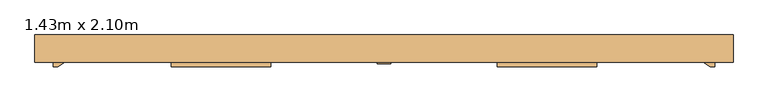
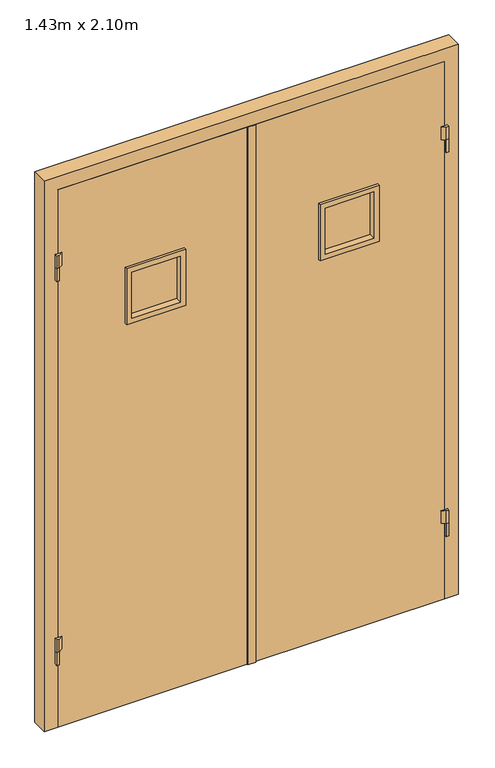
"""IFC4 building model written with IfcOpenShell, lengths in millimetres: door geometry, Issue de Secours : 1.43m x 2.10m."""

from ifc_helpers import new_model, si_unit, frame, origin, origin_with_axes, place, context, project, spatial, polyline, outline, extrude, faceted_brep, source, transform, mapped, element, save


def door_1_43m_x_2_10m_1bf93080(model_context):
    return source(origin(), model_context, "Body", "SolidModel", [
        faceted_brep([(-715.0, -170.0, 0.0), (-765.0, -170.0, 0.0), (-765.0, -110.0, 0.0), (-700.0, -110.0, 0.0), (-700.0, -130.0, 0.0), (-715.0, -130.0, 0.0), (-715.0, -130.0, 2100.0), (-715.0, -170.0, 2100.0), (-700.0, -130.0, 2085.0), (700.0, -130.0, 2085.0), (700.0, -130.0, 0.0), (715.0, -130.0, 0.0), (715.0, -130.0, 2100.0), (-700.0, -110.0, 2085.0), (-765.0, -110.0, 2150.0), (765.0, -110.0, 2150.0), (765.0, -110.0, 0.0), (700.0, -110.0, 0.0), (700.0, -110.0, 2085.0), (-765.0, -170.0, 2150.0), (715.0, -170.0, 2100.0), (715.0, -170.0, 0.0), (765.0, -170.0, 0.0), (765.0, -170.0, 2150.0)], [[[0, 1, 2, 3, 4, 5]], [[5, 6, 7, 0]], [[4, 8, 9, 10, 11, 12, 6, 5]], [[3, 13, 8, 4]], [[2, 14, 15, 16, 17, 18, 13, 3]], [[1, 19, 14, 2]], [[0, 7, 20, 21, 22, 23, 19, 1]], [[12, 11, 21, 20]], [[21, 11, 10, 17, 16, 22]], [[18, 17, 10, 9]], [[23, 22, 16, 15]], [[6, 12, 20, 7]], [[13, 18, 9, 8]], [[19, 23, 15, 14]]]),
        extrude(outline(polyline([(15.0, -173.0), (-15.0, -173.0), (-15.0, -170.0), (15.0, -170.0), (15.0, -173.0)])), origin_with_axes(), (0.0, 0.0, 1.0), 2100.0),
        extrude(outline(polyline([(262.5, -144.0), (452.5, -144.0), (452.5, -156.0), (262.5, -156.0), (262.5, -144.0)])), frame((0.0, 0.0, 1505.0), z_axis=(0.0, 0.0, 1.0), x_axis=(1.0, 0.0, 0.0)), (0.0, 0.0, 1.0), 190.0),
        faceted_brep([(457.5, -130.0, 1500.0), (457.5, -130.0, 1700.0), (457.5, -170.0, 1700.0), (457.5, -170.0, 1500.0), (466.5618929, -120.0, 1490.9381071), (466.5618929, -120.0, 1709.0618929), (466.5618929, -130.0, 1709.0618929), (466.5618929, -130.0, 1490.9381071), (447.5, -144.0, 1510.0), (447.5, -144.0, 1690.0), (447.5, -120.0, 1690.0), (447.5, -120.0, 1510.0), (452.5, -156.0, 1505.0), (452.5, -156.0, 1695.0), (452.5, -144.0, 1695.0), (452.5, -144.0, 1505.0), (447.5, -180.0, 1510.0), (447.5, -180.0, 1690.0), (447.5, -156.0, 1690.0), (447.5, -156.0, 1510.0), (466.5618929, -170.0, 1490.9381071), (466.5618929, -170.0, 1709.0618929), (466.5618929, -180.0, 1709.0618929), (466.5618929, -180.0, 1490.9381071), (257.5, -130.0, 1700.0), (257.5, -170.0, 1700.0), (248.4381071, -120.0, 1709.0618929), (248.4381071, -130.0, 1709.0618929), (267.5, -144.0, 1690.0), (267.5, -120.0, 1690.0), (262.5, -156.0, 1695.0), (262.5, -144.0, 1695.0), (267.5, -180.0, 1690.0), (267.5, -156.0, 1690.0), (248.4381071, -170.0, 1709.0618929), (248.4381071, -180.0, 1709.0618929), (257.5, -130.0, 1500.0), (257.5, -170.0, 1500.0), (248.4381071, -120.0, 1490.9381071), (248.4381071, -130.0, 1490.9381071), (267.5, -144.0, 1510.0), (267.5, -120.0, 1510.0), (262.5, -156.0, 1505.0), (262.5, -144.0, 1505.0), (267.5, -180.0, 1510.0), (267.5, -156.0, 1510.0), (248.4381071, -170.0, 1490.9381071), (248.4381071, -180.0, 1490.9381071)], [[[0, 1, 2, 3]], [[4, 5, 6, 7]], [[8, 9, 10, 11]], [[12, 13, 14, 15]], [[16, 17, 18, 19]], [[20, 21, 22, 23]], [[1, 24, 25, 2]], [[5, 26, 27, 6]], [[9, 28, 29, 10]], [[13, 30, 31, 14]], [[17, 32, 33, 18]], [[21, 34, 35, 22]], [[24, 36, 37, 25]], [[26, 38, 39, 27]], [[28, 40, 41, 29]], [[30, 42, 43, 31]], [[32, 44, 45, 33]], [[34, 46, 47, 35]], [[36, 0, 3, 37]], [[7, 6, 27, 39], [1, 0, 36, 24]], [[38, 4, 7, 39]], [[5, 4, 38, 26], [11, 10, 29, 41]], [[40, 8, 11, 41]], [[15, 14, 31, 43], [9, 8, 40, 28]], [[42, 12, 15, 43]], [[13, 12, 42, 30], [19, 18, 33, 45]], [[44, 16, 19, 45]], [[23, 22, 35, 47], [17, 16, 44, 32]], [[46, 20, 23, 47]], [[21, 20, 46, 34], [3, 2, 25, 37]]]),
        extrude(outline(polyline([(2100.0, 715.0), (2100.0, 0.0), (0.0, 0.0), (0.0, 715.0), (2100.0, 715.0)]), holes=[polyline([(1700.0, 257.5), (1700.0, 457.5), (1500.0, 457.5), (1500.0, 257.5), (1700.0, 257.5)])]), frame((0.0, -170.0, 0.0), z_axis=(0.0, 1.0, 0.0), x_axis=(0.0, 0.0, 1.0)), (0.0, 0.0, 1.0), 40.0),
        extrude(outline(polyline([(-452.5, -144.0), (-262.5, -144.0), (-262.5, -156.0), (-452.5, -156.0), (-452.5, -144.0)])), frame((0.0, 0.0, 1505.0), z_axis=(0.0, 0.0, 1.0), x_axis=(1.0, 0.0, 0.0)), (0.0, 0.0, 1.0), 190.0),
        faceted_brep([(-257.5, -130.0, 1500.0), (-257.5, -130.0, 1700.0), (-257.5, -170.0, 1700.0), (-257.5, -170.0, 1500.0), (-248.4381071, -120.0, 1490.9381071), (-248.4381071, -120.0, 1709.0618929), (-248.4381071, -130.0, 1709.0618929), (-248.4381071, -130.0, 1490.9381071), (-267.5, -144.0, 1510.0), (-267.5, -144.0, 1690.0), (-267.5, -120.0, 1690.0), (-267.5, -120.0, 1510.0), (-262.5, -156.0, 1505.0), (-262.5, -156.0, 1695.0), (-262.5, -144.0, 1695.0), (-262.5, -144.0, 1505.0), (-267.5, -180.0, 1510.0), (-267.5, -180.0, 1690.0), (-267.5, -156.0, 1690.0), (-267.5, -156.0, 1510.0), (-248.4381071, -170.0, 1490.9381071), (-248.4381071, -170.0, 1709.0618929), (-248.4381071, -180.0, 1709.0618929), (-248.4381071, -180.0, 1490.9381071), (-457.5, -130.0, 1700.0), (-457.5, -170.0, 1700.0), (-466.5618929, -120.0, 1709.0618929), (-466.5618929, -130.0, 1709.0618929), (-447.5, -144.0, 1690.0), (-447.5, -120.0, 1690.0), (-452.5, -156.0, 1695.0), (-452.5, -144.0, 1695.0), (-447.5, -180.0, 1690.0), (-447.5, -156.0, 1690.0), (-466.5618929, -170.0, 1709.0618929), (-466.5618929, -180.0, 1709.0618929), (-457.5, -130.0, 1500.0), (-457.5, -170.0, 1500.0), (-466.5618929, -120.0, 1490.9381071), (-466.5618929, -130.0, 1490.9381071), (-447.5, -144.0, 1510.0), (-447.5, -120.0, 1510.0), (-452.5, -156.0, 1505.0), (-452.5, -144.0, 1505.0), (-447.5, -180.0, 1510.0), (-447.5, -156.0, 1510.0), (-466.5618929, -170.0, 1490.9381071), (-466.5618929, -180.0, 1490.9381071)], [[[0, 1, 2, 3]], [[4, 5, 6, 7]], [[8, 9, 10, 11]], [[12, 13, 14, 15]], [[16, 17, 18, 19]], [[20, 21, 22, 23]], [[1, 24, 25, 2]], [[5, 26, 27, 6]], [[9, 28, 29, 10]], [[13, 30, 31, 14]], [[17, 32, 33, 18]], [[21, 34, 35, 22]], [[24, 36, 37, 25]], [[26, 38, 39, 27]], [[28, 40, 41, 29]], [[30, 42, 43, 31]], [[32, 44, 45, 33]], [[34, 46, 47, 35]], [[36, 0, 3, 37]], [[7, 6, 27, 39], [1, 0, 36, 24]], [[38, 4, 7, 39]], [[5, 4, 38, 26], [11, 10, 29, 41]], [[40, 8, 11, 41]], [[15, 14, 31, 43], [9, 8, 40, 28]], [[42, 12, 15, 43]], [[13, 12, 42, 30], [19, 18, 33, 45]], [[44, 16, 19, 45]], [[23, 22, 35, 47], [17, 16, 44, 32]], [[46, 20, 23, 47]], [[21, 20, 46, 34], [3, 2, 25, 37]]]),
        extrude(outline(polyline([(2100.0, 0.0), (2100.0, -715.0), (0.0, -715.0), (0.0, 0.0), (2100.0, 0.0)]), holes=[polyline([(1700.0, -457.5), (1700.0, -257.5), (1500.0, -257.5), (1500.0, -457.5), (1700.0, -457.5)])]), frame((0.0, -170.0, 0.0), z_axis=(0.0, 1.0, 0.0), x_axis=(0.0, 0.0, 1.0)), (0.0, 0.0, 1.0), 40.0),
        extrude(outline(polyline([(725.0, -180.0), (715.0, -180.0), (700.0, -170.0), (725.0, -170.0), (725.0, -180.0)])), frame((0.0, 0.0, 1800.0), z_axis=(0.0, 0.0, 1.0), x_axis=(1.0, 0.0, 0.0)), (0.0, 0.0, 1.0), 50.0),
        extrude(outline(polyline([(-725.0, -180.0), (-725.0, -170.0), (-700.0, -170.0), (-715.0, -180.0), (-725.0, -180.0)])), frame((0.0, 0.0, 1800.0), z_axis=(0.0, 0.0, 1.0), x_axis=(1.0, 0.0, 0.0)), (0.0, 0.0, 1.0), 50.0),
        extrude(outline(polyline([(725.0, -180.0), (715.0, -180.0), (715.0, -170.0), (725.0, -170.0), (725.0, -180.0)])), frame((0.0, 0.0, 1750.0), z_axis=(0.0, 0.0, 1.0), x_axis=(1.0, 0.0, 0.0)), (0.0, 0.0, 1.0), 50.0),
        extrude(outline(polyline([(-715.0, -180.0), (-725.0, -180.0), (-725.0, -170.0), (-715.0, -170.0), (-715.0, -180.0)])), frame((0.0, 0.0, 1750.0), z_axis=(0.0, 0.0, 1.0), x_axis=(1.0, 0.0, 0.0)), (0.0, 0.0, 1.0), 50.0),
        extrude(outline(polyline([(-725.0, -170.0), (-700.0, -170.0), (-715.0, -180.0), (-725.0, -180.0), (-725.0, -170.0)])), frame((0.0, 0.0, 300.0), z_axis=(0.0, 0.0, 1.0), x_axis=(1.0, 0.0, 0.0)), (0.0, 0.0, 1.0), 50.0),
        extrude(outline(polyline([(725.0, -180.0), (715.0, -180.0), (700.0, -170.0), (725.0, -170.0), (725.0, -180.0)])), frame((0.0, 0.0, 300.0), z_axis=(0.0, 0.0, 1.0), x_axis=(1.0, 0.0, 0.0)), (0.0, 0.0, 1.0), 50.0),
        extrude(outline(polyline([(-715.0, -180.0), (-725.0, -180.0), (-725.0, -170.0), (-715.0, -170.0), (-715.0, -180.0)])), frame((0.0, 0.0, 250.0), z_axis=(0.0, 0.0, 1.0), x_axis=(1.0, 0.0, 0.0)), (0.0, 0.0, 1.0), 50.0),
        extrude(outline(polyline([(715.0, -180.0), (715.0, -170.0), (725.0, -170.0), (725.0, -180.0), (715.0, -180.0)])), frame((0.0, 0.0, 250.0), z_axis=(0.0, 0.0, 1.0), x_axis=(1.0, 0.0, 0.0)), (0.0, 0.0, 1.0), 50.0),
    ])


if __name__ == "__main__":
    model = new_model("IFC4")
    model_context = context("Model", 3, world=origin())
    ifc_project = project(units=[si_unit("LENGTHUNIT", "METRE", prefix="MILLI")], contexts=[model_context])
    site = spatial("IfcSite", under=ifc_project)
    building = spatial("IfcBuilding", under=site)
    placement = place(None, origin())
    door_1_43m_x_2_10m_shape = door_1_43m_x_2_10m_1bf93080(model_context)
    element("IfcDoor", 1, ObjectType="Issue de Secours : 1.43m x 2.10m", at=placement, inside=building, context=model_context, shape_type="MappedRepresentation", body=[
        mapped(door_1_43m_x_2_10m_shape, transform((0.0, 0.0, 0.0), x_axis=(1.0, 0.0, 0.0), y_axis=(0.0, 1.0, 0.0), z_axis=(0.0, 0.0, 1.0))),
    ])
    save(model, "model.ifc")
